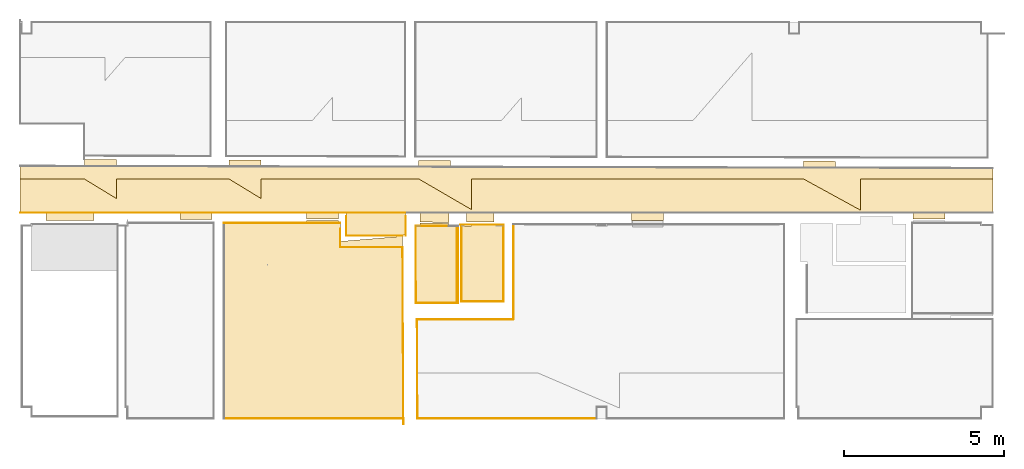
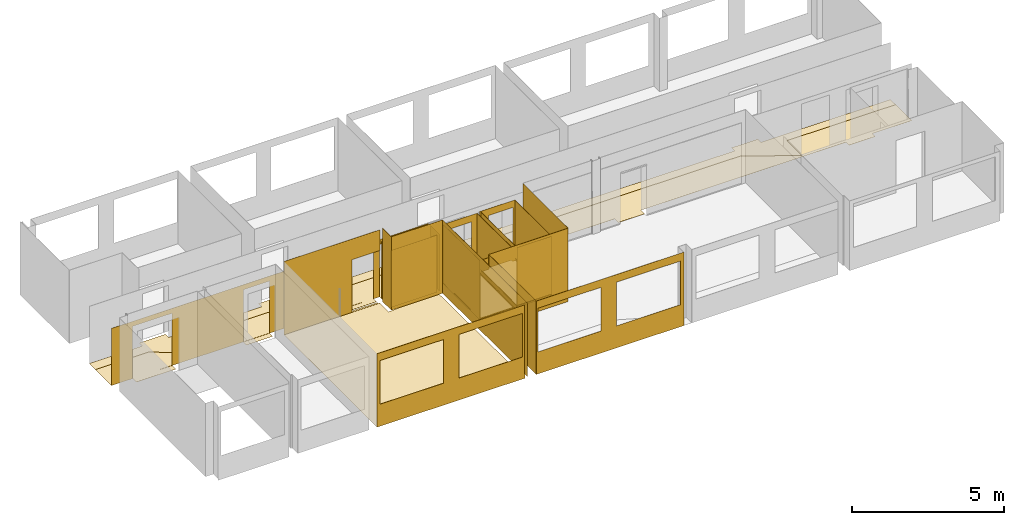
# One storey, part 5 of 16: 32 coverings, 11 openings.
"""IFC2X3 building model written with IfcOpenShell, lengths in millimetres."""

from ifc_helpers import new_model, entity, si_unit, converted_unit, derived_unit, money_unit, direction, frame, origin_with_axes, origin_2d_with_axis, place, context, subcontext, project, spatial, polyline, rectangle, outline, extrude, material, type_object, element, save


model = new_model("IFC2X3")

# Units and contexts
model_context = context("Model", 3, precision=0.01, world=origin_with_axes(), true_north=direction((0.0, 1.0)))
body_context = subcontext(model_context, "Body", "Model", "MODEL_VIEW")
ifc_project = project(units=[si_unit("LENGTHUNIT", "METRE", prefix="MILLI"), si_unit("AREAUNIT", "SQUARE_METRE"), si_unit("VOLUMEUNIT", "CUBIC_METRE"), converted_unit("PLANEANGLEUNIT", "DEGREE", entity("IfcPlaneAngleMeasure", 0.0174532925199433), si_unit("PLANEANGLEUNIT", "RADIAN"), dimensions=[0, 0, 0, 0, 0, 0, 0]), money_unit("EUR"), converted_unit("TIMEUNIT", "Year", entity("IfcTimeMeasure", 31556926.0), si_unit("TIMEUNIT", "SECOND"), dimensions=[0, 0, 1, 0, 0, 0, 0]), si_unit("MASSUNIT", "GRAM", prefix="KILO"), si_unit("THERMODYNAMICTEMPERATUREUNIT", "DEGREE_CELSIUS"), si_unit("LUMINOUSINTENSITYUNIT", "LUMEN"), si_unit("ENERGYUNIT", "JOULE", prefix="MEGA"), derived_unit("THERMALCONDUCTANCEUNIT", [(si_unit("POWERUNIT", "WATT"), 1), (si_unit("LENGTHUNIT", "METRE"), -1), (si_unit("THERMODYNAMICTEMPERATUREUNIT", "KELVIN"), -1)]), derived_unit("SPECIFICHEATCAPACITYUNIT", [(si_unit("ENERGYUNIT", "JOULE"), 1), (si_unit("MASSUNIT", "GRAM", prefix="KILO"), -1), (si_unit("THERMODYNAMICTEMPERATUREUNIT", "KELVIN"), -1)]), derived_unit("MASSDENSITYUNIT", [(si_unit("MASSUNIT", "GRAM", prefix="KILO"), 1), (si_unit("VOLUMEUNIT", "CUBIC_METRE"), -1)])], contexts=[model_context])

# Site, building, storey
site_placement = place(None, origin_with_axes())
site = spatial("IfcSite", under=ifc_project, at=site_placement, Name="Paldiski mnt 245/1, Tallinn, Harjumaa", CompositionType="COMPLEX")
building_placement = place(site_placement, origin_with_axes())
building = spatial("IfcBuilding", under=site, at=building_placement, Name="RKAS Hoone üldnimetus (kasutust iseloomustav) -> IFC Project Manager -> SOLIBRI", CompositionType="ELEMENT")
storey_placement = place(building_placement, frame((0.0, 0.0, 3300.0), z_axis=(0.0, 0.0, 1.0), x_axis=(1.0, 0.0, 0.0)))
storey = spatial("IfcBuildingStorey", under=building, at=storey_placement, Name="Teine korrus", CompositionType="ELEMENT", Elevation=3300.0)

# Coverings
ifc_material_1 = material(Name="SA- PM-2 vinüül hex")
covering_type_1 = type_object("IfcCoveringType", Name="SA- PM-2 vinüül hex 3", PredefinedType="FLOORING")
covering_1_placement = place(storey_placement, frame((-47649.99992077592, -5016.0945850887, 0.0), z_axis=(0.0, 0.0, 1.0), x_axis=(1.0, 0.0, 0.0)))
element("IfcCovering", 1, at=covering_1_placement, inside=storey, type_object=covering_type_1, material=ifc_material_1, Name="PM-2", PredefinedType="FLOORING", context=body_context, shape_type="SweptSolid", body=[
    extrude(outline(polyline([(0.0, 0.0), (5.635686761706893e-05, -1055.905605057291), (59.99985397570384, -1055.905592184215), (806.5185993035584, -1055.905414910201), (806.5185993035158, -1296.786983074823), (2306.518599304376, -1296.786983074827), (2306.518599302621, -1055.905414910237), (5009.999920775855, -1055.905414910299), (5009.999920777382, -1263.905414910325), (6009.999920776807, -1263.905414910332), (6009.999920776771, -1055.905416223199), (8965.655187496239, -1055.905365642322), (8964.441048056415, -1256.017953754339), (9964.999846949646, -1255.705038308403), (9965.000007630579, -1055.905414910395), (10193.07746636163, -1055.905364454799), (10193.07751929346, -1755.989236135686), (12049.37988065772, -1755.989417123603), (12050.45783810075, -1055.905414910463), (12510.00865321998, -1055.905431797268), (12509.90810247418, -1352.586575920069), (13409.1447768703, -1354.525785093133), (13409.78880470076, -1055.905417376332), (13967.64223804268, -1055.905365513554), (13967.64198145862, -1352.168922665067), (14816.77533133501, -1352.168667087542), (14817.32095259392, -1055.905414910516), (19126.26480827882, -1055.905414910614), (19125.71915272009, -1295.054122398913), (20125.71908287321, -1295.054196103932), (20125.71908626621, -1055.905415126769), (26279.99992054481, -1055.90535433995), (26315.6025082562, -1055.905414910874), (27924.99992077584, -1055.905414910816), (27923.53169463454, -1252.235362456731), (28925.23838065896, -1252.78183158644), (28924.9482110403, -1055.90503249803), (30419.99387171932, -1055.905414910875), (30419.50425071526, 0.0001077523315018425), (26279.99992077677, 0.0001077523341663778), (26279.99992077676, -974.5562987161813), (24500.17596410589, 0.0001077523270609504), (14120.0000115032, 8.309699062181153e-05), (14120.00001395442, -959.5358317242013), (12470.36435116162, -1.842393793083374e-06), (7534.690000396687, 9.488910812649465e-05), (7534.643415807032, -609.5914436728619), (6534.867087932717, 6.874487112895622e-05), (3009.448194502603, -6.018050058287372e-06), (3009.651038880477, -609.5849142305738), (2009.936948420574, -1.210861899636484e-05), (0.0, 0.0)])), origin_with_axes(), (0.0, 0.0, 1.0), 3.0),
])
covering_2_placement = place(storey_placement, frame((-33849.00046626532, -8855.081291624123, 0.0), z_axis=(0.0, 0.0, 1.0), x_axis=(1.0, 0.0, 0.0)))
element("IfcCovering", 2, at=covering_2_placement, inside=storey, type_object=covering_type_1, material=ifc_material_1, Name="PM-2", PredefinedType="FLOORING", context=body_context, shape_type="SweptSolid", body=[
    extrude(outline(polyline([(0.0, 0.0), (1319.000466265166, 6.550980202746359e-05), (1319.000466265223, 2370.081291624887), (1219.000466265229, 2370.081291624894), (1218.454864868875, 2448.358559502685), (318.4546495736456, 2448.358288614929), (319.0004662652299, 2370.081291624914), (275.294859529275, 2370.08129162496), (0.0, 2370.081291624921), (0.0, 0.0)])), origin_with_axes(), (0.0, 0.0, 1.0), 3.0),
])
covering_3_placement = place(storey_placement, frame((-41271.99997779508, -12510.08431778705, 0.0), z_axis=(0.0, 0.0, 1.0), x_axis=(1.0, 0.0, 0.0)))
element("IfcCovering", 3, at=covering_3_placement, inside=storey, type_object=covering_type_1, material=ifc_material_1, Name="PM-2", PredefinedType="FLOORING", context=body_context, shape_type="SweptSolid", body=[
    extrude(outline(polyline([(0.0, 0.0), (5614.899008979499, -1.158516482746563e-05), (5598.030998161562, 3211.225341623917), (5584.941965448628, 5703.000279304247), (3639.076682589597, 5542.000229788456), (3639.076682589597, 6122.084317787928), (3586.999977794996, 6122.084317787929), (3586.999977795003, 6195.00024592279), (2586.999977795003, 6195.00024592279), (2586.999977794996, 6122.084317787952), (-2.220500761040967e-05, 6122.084317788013), (0.0, 0.0)])), origin_with_axes(), (0.0, 0.0, 1.0), 3.0),
])
covering_4_placement = place(storey_placement, frame((-35268.19341513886, -8900.07854623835, 0.0), z_axis=(0.0, 0.0, 1.0), x_axis=(1.0, 0.0, 0.0)))
element("IfcCovering", 4, at=covering_4_placement, inside=storey, type_object=covering_type_1, material=ifc_material_1, Name="PM-2", PredefinedType="FLOORING", context=body_context, shape_type="SweptSolid", body=[
    extrude(outline(polyline([(0.0, 0.0), (1319.192948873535, -0.002573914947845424), (1319.192948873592, 2415.07854623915), (1028.193415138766, 2415.078546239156), (1027.272296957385, 2498.867475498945), (128.0912290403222, 2500.806564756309), (128.1934151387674, 2415.078546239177), (-13.44920118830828, 2415.07854623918), (0.0, 0.0)])), origin_with_axes(), (0.0, 0.0, 1.0), 3.0),
])
ifc_material_2 = material(Name="SA- PM-3 vinüül rice")
covering_type_2 = type_object("IfcCoveringType", Name="SA- PM-3 vinüül rice 3", PredefinedType="FLOORING")
covering_5_placement = place(storey_placement, frame((-47649.99992077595, -5016.094533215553, 0.0), z_axis=(0.0, 0.0, 1.0), x_axis=(1.0, 0.0, 0.0)))
element("IfcCovering", 5, at=covering_5_placement, inside=storey, type_object=covering_type_2, material=ifc_material_2, Name="PM-3", PredefinedType="FLOORING", context=body_context, shape_type="SweptSolid", body=[
    extrude(outline(polyline([(0.0, 0.0), (2009.936948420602, -6.398176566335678e-05), (3009.651038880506, -609.5849661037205), (3009.448073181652, 0.0), (6534.867087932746, 1.687172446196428e-05), (7534.643415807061, -609.5914955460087), (7534.689897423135, 0.0), (12470.36435116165, -5.371554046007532e-05), (14120.00001395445, -959.535883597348), (14119.99992077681, 5.587918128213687e-05), (24500.17596410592, 5.587918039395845e-05), (26279.99992077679, -974.556350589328), (26279.9999207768, 5.587918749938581e-05), (30419.50425071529, 5.587918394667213e-05), (30419.50425071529, 340.0927525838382), (25498.98673495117, 351.1191397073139), (25499.36595985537, 553.9470161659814), (24499.36834710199, 556.1384448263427), (24498.91384006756, 353.3149996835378), (13463.91088986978, 378.0433364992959), (13464.36534478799, 580.8435248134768), (12464.36785559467, 583.0844190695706), (12463.91319476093, 380.1923410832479), (7534.689897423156, 391.2382369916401), (7534.689897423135, 593.463372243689), (6534.907329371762, 599.3873725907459), (6534.445749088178, 393.4074949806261), (3009.448073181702, 401.3066618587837), (3009.448073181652, 605.0780508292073), (2009.647782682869, 601.61935675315), (2010.268014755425, 403.539211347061), (8.060639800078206e-05, 405.9222923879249), (0.0, 0.0)])), origin_with_axes(), (0.0, 0.0, 1.0), 3.0),
])
covering_type_3 = type_object("IfcCoveringType", Name="PL-5 4 x 70", PredefinedType="CEILING")
covering_6_placement = place(storey_placement, frame((-33949.00046626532, -8900.081120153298, 0.0), z_axis=(0.0, 0.0, 1.0), x_axis=(1.95112849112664e-06, 0.9999999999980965, 0.0)))
element("IfcCovering", 6, at=covering_6_placement, inside=storey, type_object=covering_type_3, material=ifc_material_1, Name="RL-1", PredefinedType="CEILING", context=body_context, shape_type="SweptSolid", body=[
    extrude(outline(polyline([(0.0, 0.0), (3.870666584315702, 0.05666066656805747), (3.867237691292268, 69.8968563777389), (0.01253269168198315, 69.86981450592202), (0.0, 0.0)])), frame((0.0, 1319.192948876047, 0.0), z_axis=(0.0, -1.0, 0.0), x_axis=(1.0, 0.0, 0.0)), (0.0, 0.0, 1.0), 1319.192948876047),
])
covering_7_placement = place(storey_placement, frame((-32530.00000000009, -6484.999999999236, 0.0), z_axis=(0.0, 0.0, 1.0), x_axis=(-1.0, 0.0, 0.0)))
element("IfcCovering", 7, at=covering_7_placement, inside=storey, type_object=covering_type_3, material=ifc_material_1, Name="RL-1", PredefinedType="CEILING", context=body_context, shape_type="SweptSolid", body=[
    extrude(outline(polyline([(0.0, 0.0), (3.870666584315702, 0.05666066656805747), (3.867237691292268, 69.8968563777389), (0.01253269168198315, 69.86981450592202), (0.0, 0.0)])), frame((0.0, 2370.081226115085, 0.0), z_axis=(0.0, -1.0, 0.0), x_axis=(1.0, 0.0, 0.0)), (0.0, 0.0, 1.0), 2370.081226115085),
])
covering_8_placement = place(storey_placement, frame((-32530.00000000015, -8855.08122611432, 0.0), z_axis=(0.0, 0.0, 1.0), x_axis=(-4.966624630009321e-08, 0.9999999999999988, 0.0)))
element("IfcCovering", 8, at=covering_8_placement, inside=storey, type_object=covering_type_3, material=ifc_material_1, Name="RL-1", PredefinedType="CEILING", context=body_context, shape_type="SweptSolid", body=[
    extrude(outline(polyline([(0.0, 0.0), (3.870666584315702, 0.05666066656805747), (3.867237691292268, 69.8968563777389), (0.01253269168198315, 69.86981450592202), (0.0, 0.0)])), frame((0.0, 1319.000466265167, 0.0), z_axis=(0.0, -1.0, 0.0), x_axis=(1.0, 0.0, 0.0)), (0.0, 0.0, 1.0), 1319.000466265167),
])
covering_9_placement = place(storey_placement, frame((-33849.00046626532, -8855.081291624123, 0.0), z_axis=(0.0, 0.0, 1.0), x_axis=(1.0, 0.0, 0.0)))
element("IfcCovering", 9, at=covering_9_placement, inside=storey, type_object=covering_type_3, material=ifc_material_1, Name="RL-1", PredefinedType="CEILING", context=body_context, shape_type="SweptSolid", body=[
    extrude(outline(polyline([(0.0, 0.0), (3.870666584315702, 0.05666066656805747), (3.867237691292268, 69.8968563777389), (0.01253269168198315, 69.86981450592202), (0.0, 0.0)])), frame((0.0, 2370.081291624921, 0.0), z_axis=(0.0, -1.0, 0.0), x_axis=(1.0, 0.0, 0.0)), (0.0, 0.0, 1.0), 2370.081291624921),
])
covering_10_placement = place(storey_placement, frame((-35268.19341513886, -8900.07854623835, 0.0), z_axis=(0.0, 0.0, 1.0), x_axis=(0.9999844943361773, 0.005568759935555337, 0.0)))
element("IfcCovering", 10, at=covering_10_placement, inside=storey, type_object=covering_type_3, material=ifc_material_1, Name="RL-1", PredefinedType="CEILING", context=body_context, shape_type="SweptSolid", body=[
    extrude(outline(polyline([(0.0, 0.0), (3.870666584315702, 0.05666066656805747), (3.867237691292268, 69.8968563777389), (0.01253269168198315, 69.86981450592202), (0.0, 0.0)])), frame((0.0, 2415.115994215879, 0.0), z_axis=(0.0, -1.0, 0.0), x_axis=(1.0, 0.0, 0.0)), (0.0, 0.0, 1.0), 2415.115994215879),
])
covering_11_placement = place(storey_placement, frame((-33949.00046626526, -6484.999999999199, 0.0), z_axis=(0.0, 0.0, 1.0), x_axis=(-1.0, 0.0, 0.0)))
element("IfcCovering", 11, at=covering_11_placement, inside=storey, type_object=covering_type_3, material=ifc_material_1, Name="RL-1", PredefinedType="CEILING", context=body_context, shape_type="SweptSolid", body=[
    extrude(outline(polyline([(0.0, 0.0), (3.870666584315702, 0.05666066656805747), (3.867237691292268, 69.8968563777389), (0.01253269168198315, 69.86981450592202), (0.0, 0.0)])), frame((0.0, 2415.081120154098, 0.0), z_axis=(0.0, -1.0, 0.0), x_axis=(1.0, 0.0, 0.0)), (0.0, 0.0, 1.0), 2415.081120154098),
])
ifc_material_3 = material(Name="SA- Laminaat SM2(kollane laminaat)")
covering_type_4 = type_object("IfcCoveringType", Name="SA- Laminaat SM2(kollane laminaat) 12", PredefinedType="CLADDING")
covering_12_placement = place(storey_placement, frame((-33849.00046626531, -6484.999999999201, 49.99999999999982), z_axis=(0.0, 0.0, 1.0), x_axis=(0.0, -1.0, 0.0)))
element("IfcCovering", 12, at=covering_12_placement, inside=storey, type_object=covering_type_4, material=ifc_material_3, Name="SM2", PredefinedType="CLADDING", context=body_context, shape_type="SweptSolid", body=[
    extrude(outline(polyline([(0.0, 0.0), (2370.081291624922, 0.0), (2358.081317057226, 12.00000000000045), (0.0, 12.00000000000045), (0.0, 0.0)])), origin_with_axes(), (0.0, 0.0, 1.0), 2350.0),
])
covering_13_placement = place(storey_placement, frame((-33849.00046626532, -8855.081291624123, 49.99999999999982), z_axis=(0.0, 0.0, 1.0), x_axis=(0.9999999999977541, -2.119361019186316e-06, 0.0)))
element("IfcCovering", 13, at=covering_13_placement, inside=storey, type_object=covering_type_4, material=ifc_material_3, Name="SM2", PredefinedType="CLADDING", context=body_context, shape_type="SweptSolid", body=[
    extrude(outline(polyline([(0.0, 0.0), (1319.000466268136, 0.0), (1319.000440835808, 12.00000000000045), (11.99997456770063, 12.00000000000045), (0.0, 0.0)])), origin_with_axes(), (0.0, 0.0, 1.0), 2350.0),
])
covering_14_placement = place(storey_placement, frame((-33980.00046623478, -6484.999999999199, 49.99999999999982), z_axis=(0.0, 0.0, 1.0), x_axis=(0.0, -1.0, 0.0)))
element("IfcCovering", 14, at=covering_14_placement, inside=storey, type_object=covering_type_4, material=ifc_material_3, Name="SM2", PredefinedType="CLADDING", context=body_context, shape_type="SweptSolid", body=[
    extrude(outline(polyline([(4.999999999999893, -12.00000000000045), (2395.083918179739, -12.00000000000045), (2407.08391817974, 0.0), (0.0, 0.0), (4.999999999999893, -12.00000000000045)])), origin_with_axes(), (0.0, 0.0, 1.0), 2350.0),
])
covering_15_placement = place(storey_placement, frame((-33980.00046623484, -8892.083918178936, 49.99999999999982), z_axis=(0.0, 0.0, 1.0), x_axis=(-1.0, 0.0, 0.0)))
element("IfcCovering", 15, at=covering_15_placement, inside=storey, type_object=covering_type_4, material=ifc_material_3, Name="SM2", PredefinedType="CLADDING", context=body_context, shape_type="SweptSolid", body=[
    extrude(outline(polyline([(12.00000000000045, -12.00000000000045), (1283.370741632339, -12.00000000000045), (1288.304325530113, 0.0), (0.0, 0.0), (12.00000000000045, -12.00000000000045)])), origin_with_axes(), (0.0, 0.0, 1.0), 2350.0),
])
ifc_material_4 = material(Name="SA- Värv SM4(Niiskuskindel värv)")
covering_type_5 = type_object("IfcCoveringType", Name="SA- Värv SM4(Niiskuskindel värv) 5", PredefinedType="CLADDING")
covering_16_placement = place(storey_placement, frame((-32530.00000000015, -8855.08122611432, 0.0), z_axis=(0.0, 0.0, 1.0), x_axis=(0.0, 1.0, 0.0)))
element("IfcCovering", 16, at=covering_16_placement, inside=storey, type_object=covering_type_5, material=ifc_material_4, Name="SM4", PredefinedType="CLADDING", context=body_context, shape_type="SweptSolid", body=[
    extrude(outline(polyline([(0.0, 0.0), (2407.084023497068, 0.0), (2407.084023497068, 5.000000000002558), (0.0, 5.000000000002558), (0.0, 0.0)])), origin_with_axes(), (0.0, 0.0, 1.0), 2400.0),
])

# Covering, opening
covering_17_placement = place(storey_placement, frame((-35281.64261632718, -6484.99999999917, 0.0), z_axis=(0.0, 0.0, 1.0), x_axis=(1.0, 0.0, 0.0)))
covering_17 = element("IfcCovering", 17, at=covering_17_placement, inside=storey, type_object=covering_type_5, material=ifc_material_4, Name="SM4", PredefinedType="CLADDING", context=body_context, shape_type="SweptSolid", body=[
    extrude(outline(polyline([(5.027782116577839, -4.999999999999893), (1289.642150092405, -5.000000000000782), (1301.642150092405, 0.0), (5.000076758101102, 0.0), (5.027782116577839, -4.999999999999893)])), origin_with_axes(), (0.0, 0.0, 1.0), 2400.0),
])
opening_1_placement = place(covering_17_placement, frame((35281.64261632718, 6484.99999999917, -3300.0), z_axis=(0.0, 0.0, 1.0), x_axis=(1.0, 0.0, 0.0)))
element("IfcOpeningElement", 18, at=opening_1_placement, cuts=covering_17, Name="AVA", ObjectType="OPENING", context=body_context, shape_type="SweptSolid", body=[
    extrude(rectangle(XDim=949.3642503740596, YDim=2123.51726896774, at=origin_2d_with_axis()), frame((-34681.23855336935, -6494.999999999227, 4361.75863448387), z_axis=(0.0, -1.0, 0.0), x_axis=(1.0, 0.0, 0.0)), (0.0, 0.0, -1.0), 15.00000000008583),
])

# Covering
covering_18_placement = place(storey_placement, frame((-35268.30479176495, -8892.083918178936, 0.0), z_axis=(0.0, 0.0, 1.0), x_axis=(-0.005540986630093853, 0.9999846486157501, 0.0)))
element("IfcCovering", 19, at=covering_18_placement, inside=storey, type_object=covering_type_5, material=ifc_material_4, Name="SM4", PredefinedType="CLADDING", context=body_context, shape_type="SweptSolid", body=[
    extrude(outline(polyline([(11.97247886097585, -5.000000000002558), (2407.093165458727, -5.000000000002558), (2407.120870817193, 0.0), (0.0, 0.0), (11.97247886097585, -5.000000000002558)])), origin_with_axes(), (0.0, 0.0, 1.0), 2400.0),
])

# Covering, opening
covering_19_placement = place(storey_placement, frame((-32530.00000000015, -6447.997202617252, 0.0), z_axis=(0.0, 0.0, 1.0), x_axis=(-1.0, 0.0, 0.0)))
covering_19 = element("IfcCovering", 20, at=covering_19_placement, inside=storey, type_object=covering_type_5, material=ifc_material_4, Name="SM4", PredefinedType="CLADDING", context=body_context, shape_type="SweptSolid", body=[
    extrude(outline(polyline([(0.0, 0.0), (1350.00046623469, 0.0), (1350.00046623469, 4.999999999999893), (0.0, 4.999999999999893), (0.0, 0.0)])), origin_with_axes(), (0.0, 0.0, 1.0), 2400.0),
])
opening_2_placement = place(covering_19_placement, frame((-32530.00000000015, -6447.997202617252, -3300.0), z_axis=(0.0, 0.0, 1.0), x_axis=(-1.0, 0.0, 0.0)))
element("IfcOpeningElement", 21, at=opening_2_placement, cuts=covering_19, Name="AVA", ObjectType="OPENING", context=body_context, shape_type="SweptSolid", body=[
    extrude(rectangle(XDim=939.5804358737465, YDim=2128.149335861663, at=origin_2d_with_axis()), frame((-33077.48074158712, -6442.997202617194, 4364.074667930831), z_axis=(0.0, 1.0, 0.0), x_axis=(-1.0, 0.0, 0.0)), (0.0, 0.0, -1.0), 15.00000000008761),
])

# Coverings
ifc_material_5 = material(Name="SA- Värv SM5(valge)")
covering_type_6 = type_object("IfcCoveringType", Name="SA- Värv SM5(valge) 5", PredefinedType="CLADDING")
covering_20_placement = place(storey_placement, frame((-32221.98971028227, -6427.999999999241, 0.0), z_axis=(0.0, 0.0, 1.0), x_axis=(7.336793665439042e-09, -1.0, 0.0)))
element("IfcCovering", 22, at=covering_20_placement, inside=storey, type_object=covering_type_6, material=ifc_material_5, Name="SM5", PredefinedType="CLADDING", context=body_context, shape_type="SweptSolid", body=[
    extrude(outline(polyline([(0.0, 0.0), (2980.084739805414, 0.0), (2980.084739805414, 5.000000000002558), (3.668620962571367e-08, 5.000000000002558), (0.0, 0.0)])), origin_with_axes(), (0.0, 0.0, 1.0), 2950.0),
])
covering_21_placement = place(storey_placement, frame((-32221.989688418, -9408.084739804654, 0.0), z_axis=(0.0, 0.0, 1.0), x_axis=(-0.9999999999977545, 2.119220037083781e-06, 0.0)))
element("IfcCovering", 23, at=covering_21_placement, inside=storey, type_object=covering_type_6, material=ifc_material_5, Name="SM5", PredefinedType="CLADDING", context=body_context, shape_type="SweptSolid", body=[
    extrude(outline(polyline([(0.0, 0.0), (3015.422340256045, 0.0), (3015.396670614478, 4.999999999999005), (0.0, 4.999999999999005), (0.0, 0.0)])), origin_with_axes(), (0.0, 0.0, 1.0), 2950.0),
])

# Covering, opening
covering_22_placement = place(storey_placement, frame((-37632.92329520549, -6387.999999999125, 0.0), z_axis=(0.0, 0.0, 1.0), x_axis=(-1.0, 0.0, 0.0)))
covering_22 = element("IfcCovering", 24, at=covering_22_placement, inside=storey, type_object=covering_type_6, material=ifc_material_5, Name="SM5", PredefinedType="CLADDING", context=body_context, shape_type="SweptSolid", body=[
    extrude(outline(polyline([(0.0, 0.0), (3639.076704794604, 0.0), (3639.076704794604, 4.999999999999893), (0.0, 4.999999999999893), (0.0, 0.0)])), origin_with_axes(), (0.0, 0.0, 1.0), 2950.0),
])
opening_3_placement = place(covering_22_placement, frame((-37632.92329520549, -6387.999999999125, -3300.0), z_axis=(0.0, 0.0, 1.0), x_axis=(-1.0, 0.0, 0.0)))
element("IfcOpeningElement", 25, at=opening_3_placement, cuts=covering_22, Name="AVA", ObjectType="OPENING", context=body_context, shape_type="SweptSolid", body=[
    extrude(rectangle(XDim=1054.979418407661, YDim=2116.291015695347, at=origin_2d_with_axis()), frame((-38162.02110272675, -6382.999999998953, 4361.145507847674), z_axis=(0.0, 1.0, 0.0), x_axis=(-1.0, 0.0, 0.0)), (0.0, 0.0, -1.0), 15.00000000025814),
])

# Covering, openings
covering_23_placement = place(storey_placement, frame((-35221.49312666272, -12510.0842678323, 0.0), z_axis=(0.0, 0.0, 1.0), x_axis=(0.9999999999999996, 3.221414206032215e-08, 0.0)))
covering_23 = element("IfcCovering", 26, at=covering_23_placement, inside=storey, type_object=covering_type_6, material=ifc_material_5, Name="SM5", PredefinedType="CLADDING", context=body_context, shape_type="SweptSolid", body=[
    extrude(outline(polyline([(0.0, 0.0), (5611.493126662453, 0.0), (5611.493126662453, 5.000000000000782), (0.0, 5.000000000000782), (0.0, 0.0)])), origin_with_axes(), (0.0, 0.0, 1.0), 2950.0),
])
opening_4_placement = place(covering_23_placement, frame((35221.49352966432, 12510.08313320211, -3300.0), z_axis=(0.0, 0.0, 1.0), x_axis=(0.9999999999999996, -3.221414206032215e-08, 0.0)))
element("IfcOpeningElement", 27, at=opening_4_placement, cuts=covering_23, Name="AVA", ObjectType="OPENING", context=body_context, shape_type="SweptSolid", body=[
    extrude(rectangle(XDim=2416.955139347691, YDim=1757.19901123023, at=origin_2d_with_axis()), frame((-30951.91880182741, -12515.08444860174, 5061.400494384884), z_axis=(3.221414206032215e-08, -0.9999999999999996, 0.0), x_axis=(0.9999999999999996, 3.221414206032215e-08, 0.0)), (0.0, 0.0, -1.0), 15.00054230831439),
])
opening_5_placement = place(covering_23_placement, frame((35221.49352966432, 12510.08313320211, -3300.0), z_axis=(0.0, 0.0, 1.0), x_axis=(0.9999999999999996, -3.221414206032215e-08, 0.0)))
element("IfcOpeningElement", 28, at=opening_5_placement, cuts=covering_23, Name="AVA", ObjectType="OPENING", context=body_context, shape_type="SweptSolid", body=[
    extrude(rectangle(XDim=2400.550530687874, YDim=1757.19901123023, at=origin_2d_with_axis()), frame((-33950.5872166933, -12515.08444860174, 5061.400494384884), z_axis=(3.221414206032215e-08, -0.9999999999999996, 0.0), x_axis=(0.9999999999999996, 3.221414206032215e-08, 0.0)), (0.0, 0.0, -1.0), 15.00054230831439),
])

# Covering
covering_24_placement = place(storey_placement, frame((-35237.41202866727, -9408.07834946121, 0.0), z_axis=(0.0, 0.0, 1.0), x_axis=(0.005131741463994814, -0.9999868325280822, 0.0)))
element("IfcCovering", 29, at=covering_24_placement, inside=storey, type_object=covering_type_6, material=ifc_material_5, Name="SM5", PredefinedType="CLADDING", context=body_context, shape_type="SweptSolid", body=[
    extrude(outline(polyline([(0.0, 0.0), (3102.046797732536, 0.0), (3102.072456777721, 4.999999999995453), (0.02566964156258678, 4.999999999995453), (0.0, 0.0)])), origin_with_axes(), (0.0, 0.0, 1.0), 2950.0),
])

# Covering, openings
covering_25_placement = place(storey_placement, frame((-41272.00000000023, -12510.0843010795, 0.0), z_axis=(0.0, 0.0, 1.0), x_axis=(0.9999999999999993, 3.811587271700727e-08, 0.0)))
covering_25 = element("IfcCovering", 30, at=covering_25_placement, inside=storey, type_object=covering_type_6, material=ifc_material_5, Name="SM5", PredefinedType="CLADDING", context=body_context, shape_type="SweptSolid", body=[
    extrude(outline(polyline([(0.0, 0.0), (5614.899053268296, 0.0), (5614.899053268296, 5.000000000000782), (0.0, 5.000000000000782), (0.0, 0.0)])), origin_with_axes(), (0.0, 0.0, 1.0), 2950.0),
])
opening_6_placement = place(covering_25_placement, frame((41272.00047683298, 12510.08272796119, -3300.0), z_axis=(0.0, 0.0, 1.0), x_axis=(0.9999999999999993, -3.811587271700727e-08, 0.0)))
element("IfcOpeningElement", 31, at=opening_6_placement, cuts=covering_25, Name="AVA", ObjectType="OPENING", context=body_context, shape_type="SweptSolid", body=[
    extrude(rectangle(XDim=2419.269812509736, YDim=1756.401444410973, at=origin_2d_with_axis()), frame((-39953.42475959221, -12515.08451509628, 5061.799277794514), z_axis=(3.811587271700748e-08, -0.9999999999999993, 0.0), x_axis=(0.9999999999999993, 3.811587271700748e-08, 0.0)), (0.0, 0.0, -1.0), 15.00064205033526),
])
opening_7_placement = place(covering_25_placement, frame((41272.00047683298, 12510.08272796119, -3300.0), z_axis=(0.0, 0.0, 1.0), x_axis=(0.9999999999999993, -3.811587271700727e-08, 0.0)))
element("IfcOpeningElement", 32, at=opening_7_placement, cuts=covering_25, Name="AVA", ObjectType="OPENING", context=body_context, shape_type="SweptSolid", body=[
    extrude(rectangle(XDim=2419.269812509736, YDim=1756.401444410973, at=origin_2d_with_axis()), frame((-36952.71938091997, -12515.08451509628, 5061.799277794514), z_axis=(3.811587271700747e-08, -0.9999999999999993, 0.0), x_axis=(0.9999999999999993, 3.811587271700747e-08, 0.0)), (0.0, 0.0, -1.0), 15.00064205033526),
])

# Coverings
ifc_material_6 = material(Name="SA- Värv SM6(kollane)")
covering_type_7 = type_object("IfcCoveringType", Name="SA- Värv SM6(kollane) 5", PredefinedType="CLADDING")
covering_26_placement = place(storey_placement, frame((-35686.21226211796, -7146.747165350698, 178.6630773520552), z_axis=(0.0, 0.0, 1.0), x_axis=(0.005252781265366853, -0.999986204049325, 0.0)))
element("IfcCovering", 33, at=covering_26_placement, inside=storey, type_object=covering_type_7, material=ifc_material_6, Name="SM6", PredefinedType="CLADDING", context=body_context, shape_type="SweptSolid", body=[
    extrude(outline(polyline([(4.97380471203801, -4.999999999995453), (5542.076457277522, -4.999999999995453), (5542.076457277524, 0.0), (0.0, 0.0), (4.97380471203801, -4.999999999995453)])), origin_with_axes(), (0.0, 0.0, 1.0), 2950.0),
])
covering_27_placement = place(storey_placement, frame((-37632.92329520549, -7146.747165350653, 178.6630773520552), z_axis=(0.0, 0.0, 1.0), x_axis=(1.0, 0.0, 0.0)))
element("IfcCovering", 34, at=covering_27_placement, inside=storey, type_object=covering_type_7, material=ifc_material_6, Name="SM6", PredefinedType="CLADDING", context=body_context, shape_type="SweptSolid", body=[
    extrude(outline(polyline([(-5.000000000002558, -4.999999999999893), (1941.737228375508, -4.999999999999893), (1946.711033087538, 0.0), (0.0, 0.0), (-5.000000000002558, -4.999999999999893)])), origin_with_axes(), (0.0, 0.0, 1.0), 2950.0),
])
covering_28_placement = place(storey_placement, frame((-37632.92329520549, -6566.663077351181, 178.6630773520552), z_axis=(0.0, 0.0, 1.0), x_axis=(0.0, -1.0, 0.0)))
element("IfcCovering", 35, at=covering_28_placement, inside=storey, type_object=covering_type_7, material=ifc_material_6, Name="SM6", PredefinedType="CLADDING", context=body_context, shape_type="SweptSolid", body=[
    extrude(outline(polyline([(0.0, -5.000000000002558), (585.0840879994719, -5.000000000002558), (580.084087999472, 0.0), (0.0, 0.0), (0.0, -5.000000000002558)])), origin_with_axes(), (0.0, 0.0, 1.0), 2950.0),
])

# Covering, openings
ifc_material_7 = material(Name="SA- Värv SM8(helebeez)")
covering_type_8 = type_object("IfcCoveringType", Name="SA- Värv SM8(helebeez) 5", PredefinedType="CLADDING")
covering_29_placement = place(storey_placement, frame((-47650.48738214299, -6071.999999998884, 0.0), z_axis=(0.0, 0.0, 1.0), x_axis=(1.0, 0.0, 0.0)))
covering_29 = element("IfcCovering", 36, at=covering_29_placement, inside=storey, type_object=covering_type_8, material=ifc_material_7, Name="SM8", PredefinedType="CLADDING", context=body_context, shape_type="SweptSolid", body=[
    extrude(outline(polyline([(0.0, 0.0), (12050.94529946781, 0.0), (12050.94529946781, 4.999999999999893), (0.0, 4.999999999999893), (0.0, 0.0)])), origin_with_axes(), (0.0, 0.0, 1.0), 2300.0),
])
opening_8_placement = place(covering_29_placement, frame((47650.48738214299, 6071.999999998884, -3300.0), z_axis=(0.0, 0.0, 1.0), x_axis=(1.0, 0.0, 0.0)))
element("IfcOpeningElement", 37, at=opening_8_placement, cuts=covering_29, Name="AVA", ObjectType="OPENING", context=body_context, shape_type="SweptSolid", body=[
    extrude(rectangle(XDim=999.9999999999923, YDim=2097.0, at=origin_2d_with_axis()), frame((-38185.00000000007, -6076.999999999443, 4351.5), z_axis=(0.0, -1.0, 0.0), x_axis=(1.0, 0.0, 0.0)), (0.0, 0.0, -1.0), 15.00000000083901),
])
opening_9_placement = place(covering_29_placement, frame((47650.48738214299, 6071.999999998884, -3300.0), z_axis=(0.0, 0.0, 1.0), x_axis=(1.0, 0.0, 0.0)))
element("IfcOpeningElement", 38, at=opening_9_placement, cuts=covering_29, Name="AVA", ObjectType="OPENING", context=body_context, shape_type="SweptSolid", body=[
    extrude(rectangle(XDim=1499.999999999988, YDim=2097.0, at=origin_2d_with_axis()), frame((-46093.48132147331, -6076.999999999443, 4351.5), z_axis=(0.0, -1.0, 0.0), x_axis=(1.0, 0.0, 0.0)), (0.0, 0.0, -1.0), 15.00000000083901),
])
opening_10_placement = place(covering_29_placement, frame((47650.48738214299, 6071.999999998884, -3300.0), z_axis=(0.0, 0.0, 1.0), x_axis=(1.0, 0.0, 0.0)))
element("IfcOpeningElement", 39, at=opening_10_placement, cuts=covering_29, Name="AVA", ObjectType="OPENING", context=body_context, shape_type="SweptSolid", body=[
    extrude(rectangle(XDim=999.9999999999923, YDim=2097.0, at=origin_2d_with_axis()), frame((-42140.00000000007, -6076.999999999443, 4351.5), z_axis=(0.0, -1.0, 0.0), x_axis=(1.0, 0.0, 0.0)), (0.0, 0.0, -1.0), 15.00000000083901),
])
opening_11_placement = place(covering_29_placement, frame((47650.48738214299, 6071.999999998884, -3300.0), z_axis=(0.0, 0.0, 1.0), x_axis=(1.0, 0.0, 0.0)))
element("IfcOpeningElement", 40, at=opening_11_placement, cuts=covering_29, Name="AVA", ObjectType="OPENING", context=body_context, shape_type="SweptSolid", body=[
    extrude(rectangle(XDim=1865.922546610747, YDim=2097.0, at=origin_2d_with_axis()), frame((-36522.96127330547, -6076.999999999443, 4351.5), z_axis=(0.0, -1.0, 0.0), x_axis=(1.0, 0.0, 0.0)), (0.0, 0.0, -1.0), 15.00000000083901),
])

# Coverings
covering_30_placement = place(storey_placement, frame((-37455.92254661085, -6792.084087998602, 0.0), z_axis=(0.0, 0.0, 1.0), x_axis=(1.0, 0.0, 0.0)))
element("IfcCovering", 41, at=covering_30_placement, inside=storey, type_object=covering_type_8, material=ifc_material_7, Name="SM8", PredefinedType="CLADDING", context=body_context, shape_type="SweptSolid", body=[
    extrude(outline(polyline([(0.0, 0.0), (1768.78578223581, 0.0), (1768.78578223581, 4.999999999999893), (0.0, 4.999999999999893), (0.0, 0.0)])), origin_with_axes(), (0.0, 0.0, 1.0), 2300.0),
])
covering_31_placement = place(storey_placement, frame((-35590.00000000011, -6792.084087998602, 0.0), z_axis=(0.0, 0.0, 1.0), x_axis=(0.0, 1.0, 0.0)))
element("IfcCovering", 42, at=covering_31_placement, inside=storey, type_object=covering_type_8, material=ifc_material_7, Name="SM8", PredefinedType="CLADDING", context=body_context, shape_type="SweptSolid", body=[
    extrude(outline(polyline([(0.0, 0.0), (612.0840879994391, 0.0), (612.0840879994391, 4.999999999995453), (0.0, 5.000000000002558), (0.0, 0.0)])), origin_with_axes(), (0.0, 0.0, 1.0), 2300.0),
])
covering_32_placement = place(storey_placement, frame((-37455.92254661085, -6071.999999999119, 0.0), z_axis=(0.0, 0.0, 1.0), x_axis=(0.0, -1.0, 0.0)))
element("IfcCovering", 43, at=covering_32_placement, inside=storey, type_object=covering_type_8, material=ifc_material_7, Name="SM8", PredefinedType="CLADDING", context=body_context, shape_type="SweptSolid", body=[
    extrude(outline(polyline([(107.9999999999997, 0.0), (700.0779326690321, 0.0), (700.077965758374, 5.000000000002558), (107.9999999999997, 5.000000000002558), (107.9999999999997, 0.0)])), origin_with_axes(), (0.0, 0.0, 1.0), 2300.0),
])

save(model, "model.ifc")
